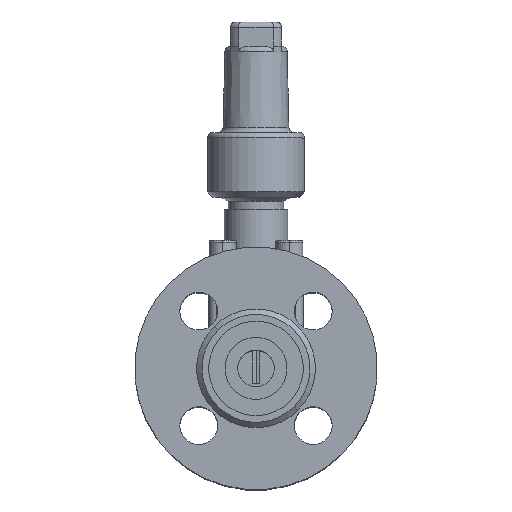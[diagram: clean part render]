
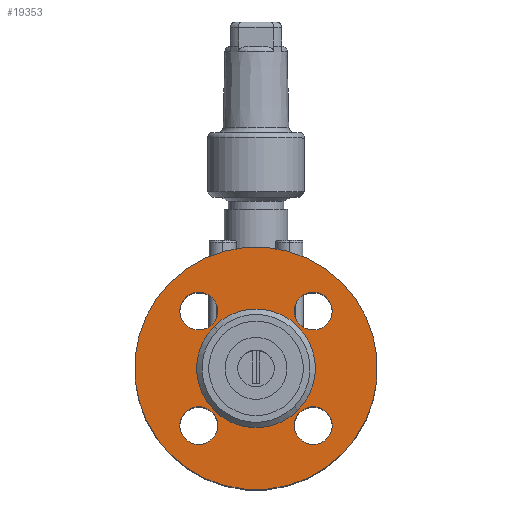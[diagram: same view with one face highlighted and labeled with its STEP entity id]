
A CAD part, top view. The second image highlights one B-rep face of the part: STEP entity #19353.
In plain terms, the highlighted planar face has unit normal (0, 0, 1) as drawn and (0, -1, 0) by its records, which use the part's own axes.
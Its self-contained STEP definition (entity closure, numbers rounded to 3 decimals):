
#16512 = EDGE_CURVE ( 'NONE', #16293, #16066, #10200, .T. ) ;
#161 = CARTESIAN_POINT ( 'NONE',  ( -7., 2., 30. ) ) ;
#254 = CARTESIAN_POINT ( 'NONE',  ( -7., 2., -30. ) ) ;
#389 = CARTESIAN_POINT ( 'NONE',  ( 7., 2., 30. ) ) ;
#16843 = ORIENTED_EDGE ( 'NONE', *, *, #12006, .F. ) ;
#619 = CARTESIAN_POINT ( 'NONE',  ( 7., 2., -30. ) ) ;
#652 = CIRCLE ( 'NONE', #653, 45. ) ;
#653 = AXIS2_PLACEMENT_3D ( 'NONE', #654, #655, #656 ) ;
#654 = CARTESIAN_POINT ( 'NONE',  ( 0., 2., 0. ) ) ;
#655 = DIRECTION ( 'NONE',  ( 0., 1., 0. ) ) ;
#656 = DIRECTION ( 'NONE',  ( -1., 0., 0. ) ) ;
#725 = CIRCLE ( 'NONE', #726, 7. ) ;
#726 = AXIS2_PLACEMENT_3D ( 'NONE', #727, #728, #729 ) ;
#727 = CARTESIAN_POINT ( 'NONE',  ( 0., 2., 30. ) ) ;
#728 = DIRECTION ( 'NONE',  ( 0., 1., 0. ) ) ;
#729 = DIRECTION ( 'NONE',  ( -1., 0., 0. ) ) ;
#967 = ORIENTED_EDGE ( 'NONE', *, *, #20528, .T. ) ;
#17413 = CIRCLE ( 'NONE', #17414, 7. ) ;
#17414 = AXIS2_PLACEMENT_3D ( 'NONE', #17415, #17416, #17417 ) ;
#17415 = CARTESIAN_POINT ( 'NONE',  ( 0., 2., -30. ) ) ;
#17416 = DIRECTION ( 'NONE',  ( 0., 1., 0. ) ) ;
#17417 = DIRECTION ( 'NONE',  ( -1., 0., 0. ) ) ;
#1766 = ORIENTED_EDGE ( 'NONE', *, *, #14600, .T. ) ;
#18557 = ORIENTED_EDGE ( 'NONE', *, *, #7181, .T. ) ;
#18614 = ORIENTED_EDGE ( 'NONE', *, *, #3214, .T. ) ;
#18984 = EDGE_CURVE ( 'NONE', #11744, #11968, #17413, .T. ) ;
#19093 = ORIENTED_EDGE ( 'NONE', *, *, #18984, .T. ) ;
#19258 = FACE_BOUND ( 'NONE', #19742, .T. ) ;
#19259 = FACE_BOUND ( 'NONE', #5704, .T. ) ;
#19262 = FACE_BOUND ( 'NONE', #15063, .T. ) ;
#19263 = FACE_BOUND ( 'NONE', #8213, .T. ) ;
#19264 = FACE_OUTER_BOUND ( 'NONE', #7947, .T. ) ;
#19265 = FACE_BOUND ( 'NONE', #10209, .T. ) ;
#19266 = PLANE ( 'NONE',  #19267 ) ;
#19267 = AXIS2_PLACEMENT_3D ( 'NONE', #19268, #19269, #19270 ) ;
#19268 = CARTESIAN_POINT ( 'NONE',  ( 22., 2., 0. ) ) ;
#19269 = DIRECTION ( 'NONE',  ( 0., 1., 0. ) ) ;
#19270 = DIRECTION ( 'NONE',  ( -1., 0., 0. ) ) ;
#19353 = ADVANCED_FACE ( 'NONE', ( #19258, #19259, #19262, #19263, #19264, #19265 ), #19266, .F. ) ;
#3177 = ORIENTED_EDGE ( 'NONE', *, *, #13060, .T. ) ;
#3214 = EDGE_CURVE ( 'NONE', #15500, #20135, #7240, .T. ) ;
#19742 = EDGE_LOOP ( 'NONE', ( #19093, #3177 ) ) ;
#19763 = ORIENTED_EDGE ( 'NONE', *, *, #5192, .T. ) ;
#20115 = VERTEX_POINT ( 'NONE', #20751 ) ;
#20135 = VERTEX_POINT ( 'NONE', #20782 ) ;
#20344 = VERTEX_POINT ( 'NONE', #21246 ) ;
#20528 = EDGE_CURVE ( 'NONE', #16066, #16293, #21595, .T. ) ;
#20568 = EDGE_CURVE ( 'NONE', #20344, #20115, #21669, .T. ) ;
#4355 = ORIENTED_EDGE ( 'NONE', *, *, #7840, .T. ) ;
#20751 = CARTESIAN_POINT ( 'NONE',  ( 45., 2., 0. ) ) ;
#20782 = CARTESIAN_POINT ( 'NONE',  ( -22., 2., 0. ) ) ;
#4727 = CIRCLE ( 'NONE', #4728, 7. ) ;
#4728 = AXIS2_PLACEMENT_3D ( 'NONE', #4729, #4730, #4731 ) ;
#4729 = CARTESIAN_POINT ( 'NONE',  ( 0., 2., -30. ) ) ;
#4730 = DIRECTION ( 'NONE',  ( 0., 1., 0. ) ) ;
#4731 = DIRECTION ( 'NONE',  ( -1., 0., 0. ) ) ;
#21246 = CARTESIAN_POINT ( 'NONE',  ( -45., 2., 0. ) ) ;
#5192 = EDGE_CURVE ( 'NONE', #7389, #7611, #8973, .T. ) ;
#21595 = CIRCLE ( 'NONE', #21596, 7. ) ;
#21596 = AXIS2_PLACEMENT_3D ( 'NONE', #21597, #21598, #21599 ) ;
#21597 = CARTESIAN_POINT ( 'NONE',  ( 30., 2., 0. ) ) ;
#21598 = DIRECTION ( 'NONE',  ( 0., 1., 0. ) ) ;
#21599 = DIRECTION ( 'NONE',  ( -1., 0., 0. ) ) ;
#21669 = CIRCLE ( 'NONE', #21670, 45. ) ;
#21670 = AXIS2_PLACEMENT_3D ( 'NONE', #21671, #21672, #21673 ) ;
#21671 = CARTESIAN_POINT ( 'NONE',  ( 0., 2., 0. ) ) ;
#21672 = DIRECTION ( 'NONE',  ( 0., 1., 0. ) ) ;
#21673 = DIRECTION ( 'NONE',  ( -1., 0., 0. ) ) ;
#5704 = EDGE_LOOP ( 'NONE', ( #19763, #4355 ) ) ;
#7120 = CIRCLE ( 'NONE', #7121, 22. ) ;
#7121 = AXIS2_PLACEMENT_3D ( 'NONE', #7122, #7123, #7124 ) ;
#7122 = CARTESIAN_POINT ( 'NONE',  ( 0., 2., 0. ) ) ;
#7123 = DIRECTION ( 'NONE',  ( 0., 1., 0. ) ) ;
#7124 = DIRECTION ( 'NONE',  ( -1., 0., 0. ) ) ;
#7181 = EDGE_CURVE ( 'NONE', #11636, #11863, #11128, .T. ) ;
#7240 = CIRCLE ( 'NONE', #7241, 22. ) ;
#7241 = AXIS2_PLACEMENT_3D ( 'NONE', #7242, #7243, #7244 ) ;
#7242 = CARTESIAN_POINT ( 'NONE',  ( 0., 2., 0. ) ) ;
#7243 = DIRECTION ( 'NONE',  ( 0., 1., 0. ) ) ;
#7244 = DIRECTION ( 'NONE',  ( -1., 0., 0. ) ) ;
#7389 = VERTEX_POINT ( 'NONE', #11868 ) ;
#7611 = VERTEX_POINT ( 'NONE', #12219 ) ;
#7840 = EDGE_CURVE ( 'NONE', #7611, #7389, #12626, .T. ) ;
#7947 = EDGE_LOOP ( 'NONE', ( #11450, #16843 ) ) ;
#8213 = EDGE_LOOP ( 'NONE', ( #967, #14121 ) ) ;
#8687 = CARTESIAN_POINT ( 'NONE',  ( 22., 2., 0. ) ) ;
#8973 = CIRCLE ( 'NONE', #8974, 7. ) ;
#8974 = AXIS2_PLACEMENT_3D ( 'NONE', #8975, #8976, #8977 ) ;
#8975 = CARTESIAN_POINT ( 'NONE',  ( -30., 2., 0. ) ) ;
#8976 = DIRECTION ( 'NONE',  ( 0., 1., 0. ) ) ;
#8977 = DIRECTION ( 'NONE',  ( -1., 0., 0. ) ) ;
#9407 = CARTESIAN_POINT ( 'NONE',  ( 23., 2., 0. ) ) ;
#9454 = ORIENTED_EDGE ( 'NONE', *, *, #12082, .T. ) ;
#10086 = CARTESIAN_POINT ( 'NONE',  ( 37., 2., 0. ) ) ;
#10200 = CIRCLE ( 'NONE', #10201, 7. ) ;
#10201 = AXIS2_PLACEMENT_3D ( 'NONE', #10202, #10203, #10204 ) ;
#10202 = CARTESIAN_POINT ( 'NONE',  ( 30., 2., 0. ) ) ;
#10203 = DIRECTION ( 'NONE',  ( 0., 1., 0. ) ) ;
#10204 = DIRECTION ( 'NONE',  ( -1., 0., 0. ) ) ;
#10209 = EDGE_LOOP ( 'NONE', ( #1766, #18614 ) ) ;
#11128 = CIRCLE ( 'NONE', #11129, 7. ) ;
#11129 = AXIS2_PLACEMENT_3D ( 'NONE', #11130, #11131, #11132 ) ;
#11130 = CARTESIAN_POINT ( 'NONE',  ( 0., 2., 30. ) ) ;
#11131 = DIRECTION ( 'NONE',  ( 0., 1., 0. ) ) ;
#11132 = DIRECTION ( 'NONE',  ( -1., 0., 0. ) ) ;
#11450 = ORIENTED_EDGE ( 'NONE', *, *, #20568, .F. ) ;
#11636 = VERTEX_POINT ( 'NONE', #161 ) ;
#11744 = VERTEX_POINT ( 'NONE', #254 ) ;
#11863 = VERTEX_POINT ( 'NONE', #389 ) ;
#11868 = CARTESIAN_POINT ( 'NONE',  ( -37., 2., 0. ) ) ;
#11968 = VERTEX_POINT ( 'NONE', #619 ) ;
#12006 = EDGE_CURVE ( 'NONE', #20115, #20344, #652, .T. ) ;
#12082 = EDGE_CURVE ( 'NONE', #11863, #11636, #725, .T. ) ;
#12219 = CARTESIAN_POINT ( 'NONE',  ( -23., 2., 0. ) ) ;
#12626 = CIRCLE ( 'NONE', #12627, 7. ) ;
#12627 = AXIS2_PLACEMENT_3D ( 'NONE', #12628, #12629, #12630 ) ;
#12628 = CARTESIAN_POINT ( 'NONE',  ( -30., 2., 0. ) ) ;
#12629 = DIRECTION ( 'NONE',  ( 0., 1., 0. ) ) ;
#12630 = DIRECTION ( 'NONE',  ( -1., 0., 0. ) ) ;
#13060 = EDGE_CURVE ( 'NONE', #11968, #11744, #4727, .T. ) ;
#14121 = ORIENTED_EDGE ( 'NONE', *, *, #16512, .T. ) ;
#14600 = EDGE_CURVE ( 'NONE', #20135, #15500, #7120, .T. ) ;
#15063 = EDGE_LOOP ( 'NONE', ( #18557, #9454 ) ) ;
#15500 = VERTEX_POINT ( 'NONE', #8687 ) ;
#16066 = VERTEX_POINT ( 'NONE', #9407 ) ;
#16293 = VERTEX_POINT ( 'NONE', #10086 ) ;
